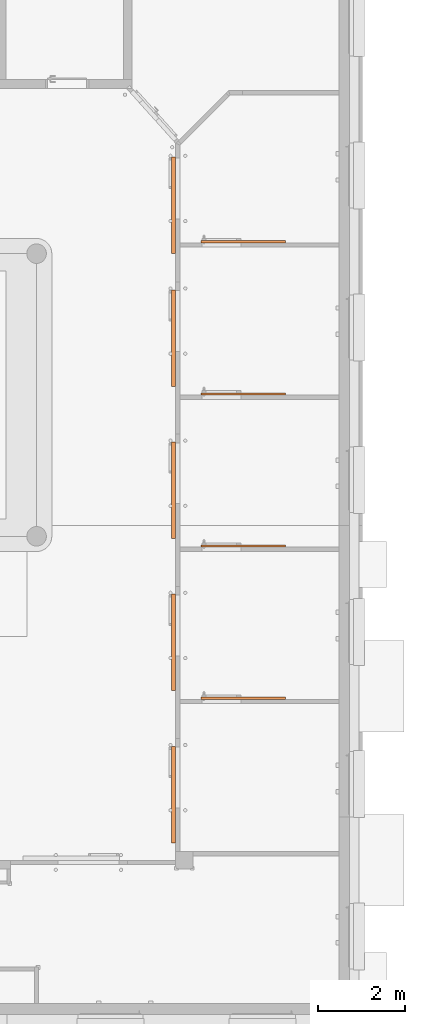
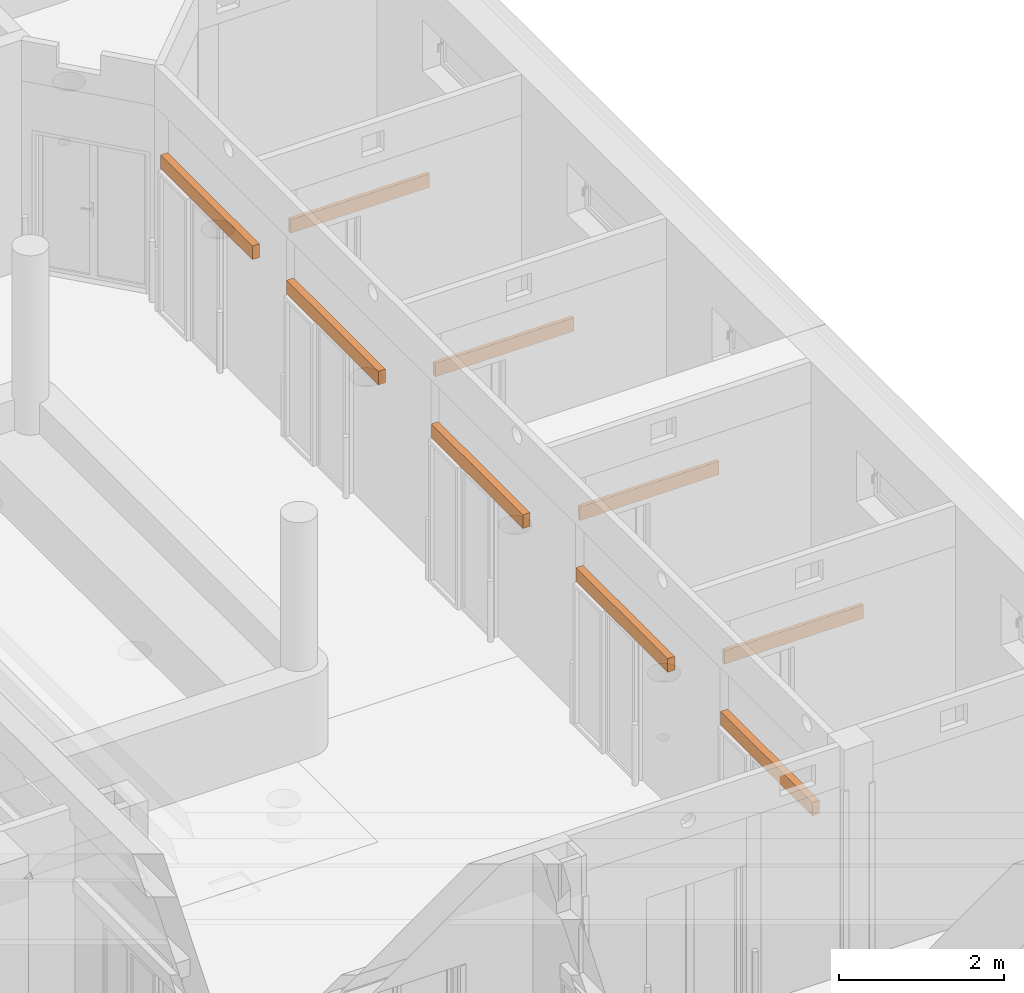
# One storey, part 140 of 140: 9 proxies.
"""IFC4 building model written with IfcOpenShell, lengths in metres."""

from ifc_helpers import new_model, entity, si_unit, converted_unit, derived_unit, frame, origin, place, context, subcontext, project, spatial, faceted_brep, material, element, save


model = new_model("IFC4")

# Units and contexts
model_context = context("Model", 3, precision=1e-05, world=origin())
body_context = subcontext(model_context, "Body", "Model", "MODEL_VIEW")
ifc_project = project(units=[si_unit("LENGTHUNIT", "METRE"), si_unit("AREAUNIT", "SQUARE_METRE"), si_unit("VOLUMEUNIT", "CUBIC_METRE"), si_unit("MASSUNIT", "GRAM", prefix="KILO"), converted_unit("PLANEANGLEUNIT", "DEGREE", entity("IfcPlaneAngleMeasure", 0.0174532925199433), si_unit("PLANEANGLEUNIT", "RADIAN"), dimensions=[0, 0, 0, 0, 0, 0, 0]), derived_unit("THERMALTRANSMITTANCEUNIT", [(si_unit("POWERUNIT", "WATT"), 1), (si_unit("THERMODYNAMICTEMPERATUREUNIT", "KELVIN"), -1), (si_unit("LENGTHUNIT", "METRE"), -2)]), derived_unit("VOLUMETRICFLOWRATEUNIT", [(si_unit("LENGTHUNIT", "METRE"), 3), (converted_unit("TIMEUNIT", "hour", entity("IfcTimeMeasure", 3600.0), si_unit("TIMEUNIT", "SECOND"), dimensions=[0, 0, 1, 0, 0, 0, 0]), -1), (si_unit("LENGTHUNIT", "METRE"), -1)])], contexts=[model_context])

# Site, building, storey
site_placement = place(None, origin())
site = spatial("IfcSite", under=ifc_project, at=site_placement, Name="3. ASŘ", CompositionType="ELEMENT")
building_placement = place(site_placement, origin())
building = spatial("IfcBuilding", under=site, at=building_placement, Name="Pavilon C", CompositionType="ELEMENT")
storey_placement = place(building_placement, origin())
storey = spatial("IfcBuildingStorey", under=building, at=storey_placement, Name="Půdorys 1.NP", CompositionType="ELEMENT", Elevation=0.0)

# Proxies
ifc_material_1 = material(Name="DVEŘNÍ POHON")
proxy_1_placement = place(storey_placement, frame((59.7, 13.8, 2.1)))
element("IfcBuildingElementProxy", 1, at=proxy_1_placement, inside=storey, material=ifc_material_1, context=body_context, shape_type="Brep", body=[
    faceted_brep([(0.1, 2.22, 0.0), (0.0, 2.22, 0.0), (0.0, 0.0, 0.0), (0.1, 0.0, 0.0), (0.0, 2.22, 0.2), (0.1, 2.22, 0.2), (0.1, 0.0, 0.2), (0.0, 0.0, 0.2)], [[[0, 1, 2, 3]], [[4, 5, 6, 7]], [[1, 0, 5, 4]], [[2, 1, 4, 7]], [[3, 2, 7, 6]], [[0, 3, 6, 5]]], orient=[[False], [False], [False], [False], [False], [False]]),
])
ifc_material_2 = material(Name="DVEŘNÍ POHON")
proxy_2_placement = place(storey_placement, frame((59.7, 20.8, 2.1)))
element("IfcBuildingElementProxy", 2, at=proxy_2_placement, inside=storey, material=ifc_material_2, context=body_context, shape_type="Brep", body=[
    faceted_brep([(0.1, 2.22, 0.0), (0.0, 2.22, 0.0), (0.0, 0.0, 0.0), (0.1, 0.0, 0.0), (0.0, 2.22, 0.2), (0.1, 2.22, 0.2), (0.1, 0.0, 0.2), (0.0, 0.0, 0.2)], [[[0, 1, 2, 3]], [[4, 5, 6, 7]], [[1, 0, 5, 4]], [[2, 1, 4, 7]], [[3, 2, 7, 6]], [[0, 3, 6, 5]]], orient=[[False], [False], [False], [False], [False], [False]]),
])
ifc_material_3 = material(Name="DVEŘNÍ POHON")
proxy_3_placement = place(storey_placement, frame((59.7, 23.85, 2.1)))
element("IfcBuildingElementProxy", 3, at=proxy_3_placement, inside=storey, material=ifc_material_3, context=body_context, shape_type="Brep", body=[
    faceted_brep([(0.1, 2.22, 0.0), (0.0, 2.22, 0.0), (0.0, 0.0, 0.0), (0.1, 0.0, 0.0), (0.0, 2.22, 0.2), (0.1, 2.22, 0.2), (0.1, 0.0, 0.2), (0.0, 0.0, 0.2)], [[[0, 1, 2, 3]], [[4, 5, 6, 7]], [[1, 0, 5, 4]], [[2, 1, 4, 7]], [[3, 2, 7, 6]], [[0, 3, 6, 5]]], orient=[[False], [False], [False], [False], [False], [False]]),
])
ifc_material_4 = material(Name="KOLEJNICE POSUVNÝCH DVEŘÍ")
proxy_4_placement = place(storey_placement, frame((60.38, 13.6, 2.1)))
element("IfcBuildingElementProxy", 4, at=proxy_4_placement, inside=storey, material=ifc_material_4, context=body_context, shape_type="Brep", body=[
    faceted_brep([(1.93999999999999, 0.0, 0.0), (1.93999999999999, 0.05, 0.0), (0.0, 0.0499999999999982, 0.0), (0.0, -1.81898940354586e-15, 0.0), (1.93999999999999, 0.05, 0.2), (1.93999999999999, 0.0, 0.2), (0.0, -1.81898940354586e-15, 0.2), (0.0, 0.0499999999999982, 0.2)], [[[0, 1, 2, 3]], [[4, 5, 6, 7]], [[1, 0, 5, 4]], [[2, 1, 4, 7]], [[3, 2, 7, 6]], [[0, 3, 6, 5]]], orient=[[False], [False], [False], [False], [False], [False]]),
])
ifc_material_5 = material(Name="KOLEJNICE POSUVNÝCH DVEŘÍ")
proxy_5_placement = place(storey_placement, frame((60.38, 17.1, 2.1)))
element("IfcBuildingElementProxy", 5, at=proxy_5_placement, inside=storey, material=ifc_material_5, context=body_context, shape_type="Brep", body=[
    faceted_brep([(1.93999999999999, 0.0, 0.0), (1.93999999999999, 0.05, 0.0), (0.0, 0.05, 0.0), (0.0, 0.0, 0.0), (1.93999999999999, 0.05, 0.2), (1.93999999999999, 0.0, 0.2), (0.0, 0.0, 0.2), (0.0, 0.05, 0.2)], [[[0, 1, 2, 3]], [[4, 5, 6, 7]], [[1, 0, 5, 4]], [[2, 1, 4, 7]], [[3, 2, 7, 6]], [[0, 3, 6, 5]]], orient=[[False], [False], [False], [False], [False], [False]]),
])
ifc_material_6 = material(Name="KOLEJNICE POSUVNÝCH DVEŘÍ")
proxy_6_placement = place(storey_placement, frame((60.38, 20.6, 2.1)))
element("IfcBuildingElementProxy", 6, at=proxy_6_placement, inside=storey, material=ifc_material_6, context=body_context, shape_type="Brep", body=[
    faceted_brep([(1.93999999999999, 0.0, 0.0), (1.93999999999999, 0.05, 0.0), (0.0, 0.05, 0.0), (0.0, 0.0, 0.0), (1.93999999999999, 0.05, 0.2), (1.93999999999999, 0.0, 0.2), (0.0, 0.0, 0.2), (0.0, 0.05, 0.2)], [[[0, 1, 2, 3]], [[4, 5, 6, 7]], [[1, 0, 5, 4]], [[2, 1, 4, 7]], [[3, 2, 7, 6]], [[0, 3, 6, 5]]], orient=[[False], [False], [False], [False], [False], [False]]),
])
ifc_material_7 = material(Name="KOLEJNICE POSUVNÝCH DVEŘÍ")
proxy_7_placement = place(storey_placement, frame((60.38, 24.1, 2.1)))
element("IfcBuildingElementProxy", 7, at=proxy_7_placement, inside=storey, material=ifc_material_7, context=body_context, shape_type="Brep", body=[
    faceted_brep([(1.93999999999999, 0.0, 0.0), (1.93999999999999, 0.05, 0.0), (0.0, 0.05, 0.0), (0.0, 0.0, 0.0), (1.93999999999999, 0.05, 0.2), (1.93999999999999, 0.0, 0.2), (0.0, 0.0, 0.2), (0.0, 0.05, 0.2)], [[[0, 1, 2, 3]], [[4, 5, 6, 7]], [[1, 0, 5, 4]], [[2, 1, 4, 7]], [[3, 2, 7, 6]], [[0, 3, 6, 5]]], orient=[[False], [False], [False], [False], [False], [False]]),
])
ifc_material_8 = material(Name="DVEŘNÍ POHON")
proxy_8_placement = place(storey_placement, frame((59.7, 10.3, 2.1)))
element("IfcBuildingElementProxy", 8, at=proxy_8_placement, inside=storey, material=ifc_material_8, context=body_context, shape_type="Brep", body=[
    faceted_brep([(0.1, 2.22, 0.0), (0.0, 2.22, 0.0), (0.0, 0.0, 0.0), (0.1, 0.0, 0.0), (0.0, 2.22, 0.2), (0.1, 2.22, 0.2), (0.1, 0.0, 0.2), (0.0, 0.0, 0.2)], [[[0, 1, 2, 3]], [[4, 5, 6, 7]], [[1, 0, 5, 4]], [[2, 1, 4, 7]], [[3, 2, 7, 6]], [[0, 3, 6, 5]]], orient=[[False], [False], [False], [False], [False], [False]]),
])
ifc_material_9 = material(Name="DVEŘNÍ POHON")
proxy_9_placement = place(storey_placement, frame((59.7, 17.3, 2.1)))
element("IfcBuildingElementProxy", 9, at=proxy_9_placement, inside=storey, material=ifc_material_9, context=body_context, shape_type="Brep", body=[
    faceted_brep([(0.1, 2.22, 0.0), (0.0, 2.22, 0.0), (0.0, 0.0, 0.0), (0.1, 0.0, 0.0), (0.0, 2.22, 0.2), (0.1, 2.22, 0.2), (0.1, 0.0, 0.2), (0.0, 0.0, 0.2)], [[[0, 1, 2, 3]], [[4, 5, 6, 7]], [[1, 0, 5, 4]], [[2, 1, 4, 7]], [[3, 2, 7, 6]], [[0, 3, 6, 5]]], orient=[[False], [False], [False], [False], [False], [False]]),
])

save(model, "model.ifc")
